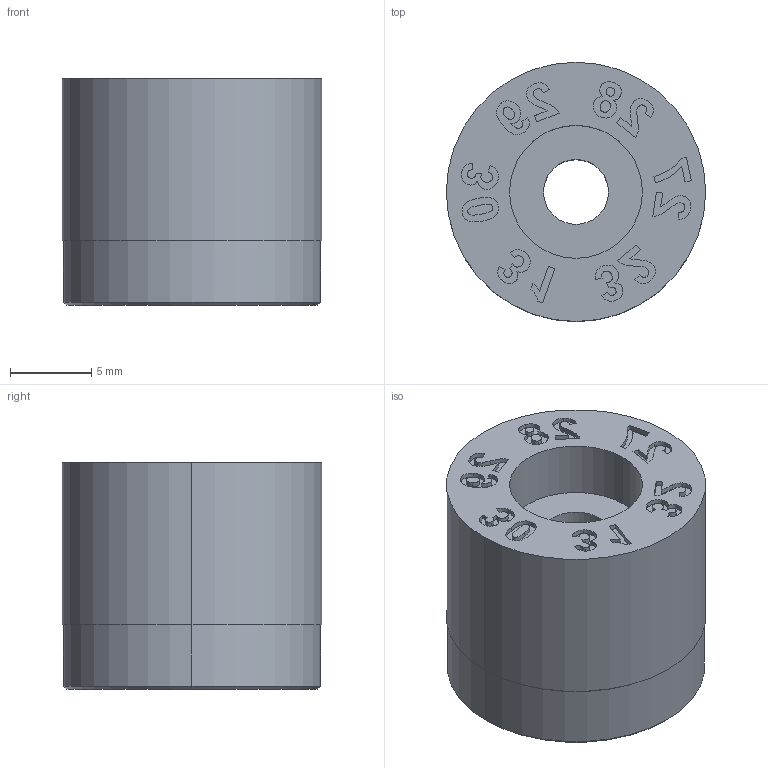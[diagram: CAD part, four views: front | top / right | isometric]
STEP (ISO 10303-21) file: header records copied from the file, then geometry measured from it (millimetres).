
FILE_DESCRIPTION (( 'STEP AP203' ), '1' );
FILE_NAME ('DTNY16-27.step', '2026-01-23T20:33:52', ( '' ), ( '' ), 'SwSTEP 2.0', 'SolidWorks 2023', '' );
FILE_SCHEMA (( 'CONFIG_CONTROL_DESIGN' ));
Length unit declared in the file: millimetre
Products named in the file (1): DTNY16-27
Bounding box: 16 x 16 x 14 mm (x, y, z)
Volume: 2477.9 mm3; surface area: 1330 mm2
Topology: 1 solids, 1 shells, 190 faces, 508 edges, 338 vertices
Faces by surface type: bspline 124, plane 56, cylinder 8, cone 2
Entity records: 11823 total; most frequent: CARTESIAN_POINT 7833, ORIENTED_EDGE 1016, EDGE_CURVE 508, DIRECTION 412, VERTEX_POINT 338, B_SPLINE_CURVE_WITH_KNOTS 248, VECTOR 242, LINE 242
